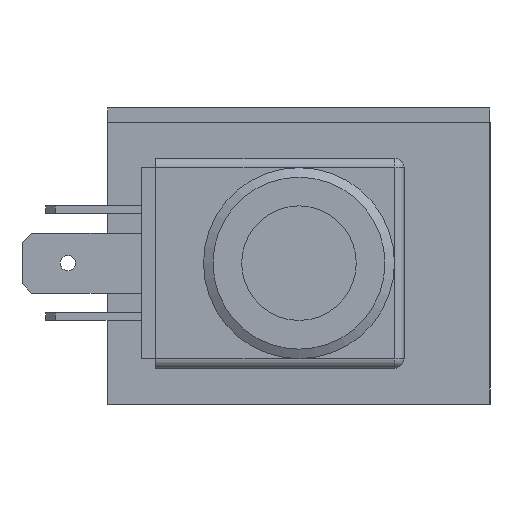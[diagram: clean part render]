
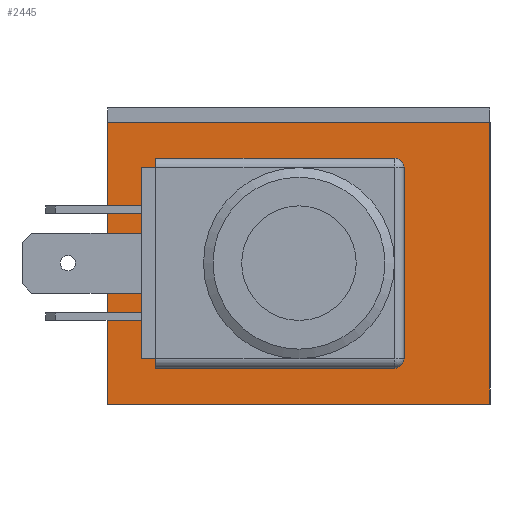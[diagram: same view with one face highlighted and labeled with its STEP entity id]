
A CAD part, left-side view. The second image highlights one B-rep face of the part: STEP entity #2445.
In plain terms, the highlighted planar face has unit normal (-1, 0, 0).
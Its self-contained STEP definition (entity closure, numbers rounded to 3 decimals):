
#1795=CARTESIAN_POINT('',(-55.0,11.,-8.75));
#1796=VERTEX_POINT('',#1795);
#1803=CARTESIAN_POINT('',(-55.0,11.0,-23.75));
#1804=VERTEX_POINT('',#1803);
#1805=CARTESIAN_POINT('',(-55.0,11.0,-23.75));
#1806=DIRECTION('',(0.0,0.0,1.0));
#1807=VECTOR('',#1806,15.);
#1808=LINE('',#1805,#1807);
#1809=EDGE_CURVE('',#1804,#1796,#1808,.T.);
#1837=CARTESIAN_POINT('',(-55.0,7.5,-5.25));
#1838=VERTEX_POINT('',#1837);
#1845=CARTESIAN_POINT('',(-55.0,7.5,-8.75));
#1846=DIRECTION('',(1.0,0.0,0.0));
#1847=DIRECTION('',(0.0,0.0,1.0));
#1848=AXIS2_PLACEMENT_3D('',#1845,#1846,#1847);
#1849=CIRCLE('',#1848,3.5);
#1850=EDGE_CURVE('',#1796,#1838,#1849,.T.);
#1869=CARTESIAN_POINT('',(-55.0,-7.5,-5.25));
#1870=VERTEX_POINT('',#1869);
#1877=CARTESIAN_POINT('',(-55.0,7.5,-5.25));
#1878=DIRECTION('',(0.0,-1.0,0.0));
#1879=VECTOR('',#1878,15.);
#1880=LINE('',#1877,#1879);
#1881=EDGE_CURVE('',#1838,#1870,#1880,.T.);
#1901=CARTESIAN_POINT('',(-55.0,-11.,-8.75));
#1902=VERTEX_POINT('',#1901);
#1909=CARTESIAN_POINT('',(-55.0,-7.5,-8.75));
#1910=DIRECTION('',(1.0,0.0,0.0));
#1911=DIRECTION('',(0.0,-1.0,0.0));
#1912=AXIS2_PLACEMENT_3D('',#1909,#1910,#1911);
#1913=CIRCLE('',#1912,3.5);
#1914=EDGE_CURVE('',#1870,#1902,#1913,.T.);
#1933=CARTESIAN_POINT('',(-55.0,-11.0,-23.75));
#1934=VERTEX_POINT('',#1933);
#1941=CARTESIAN_POINT('',(-55.0,-11.,-8.75));
#1942=DIRECTION('',(0.0,0.0,-1.0));
#1943=VECTOR('',#1942,15.);
#1944=LINE('',#1941,#1943);
#1945=EDGE_CURVE('',#1902,#1934,#1944,.T.);
#1965=CARTESIAN_POINT('',(-55.0,-7.5,-27.25));
#1966=VERTEX_POINT('',#1965);
#1973=CARTESIAN_POINT('',(-55.0,-7.5,-23.75));
#1974=DIRECTION('',(1.0,0.0,0.0));
#1975=DIRECTION('',(0.0,0.0,-1.0));
#1976=AXIS2_PLACEMENT_3D('',#1973,#1974,#1975);
#1977=CIRCLE('',#1976,3.5);
#1978=EDGE_CURVE('',#1934,#1966,#1977,.T.);
#1997=CARTESIAN_POINT('',(-55.0,7.5,-27.25));
#1998=VERTEX_POINT('',#1997);
#2005=CARTESIAN_POINT('',(-55.0,-7.5,-27.25));
#2006=DIRECTION('',(0.0,1.0,0.0));
#2007=VECTOR('',#2006,15.);
#2008=LINE('',#2005,#2007);
#2009=EDGE_CURVE('',#1966,#1998,#2008,.T.);
#2028=CARTESIAN_POINT('',(-55.0,7.5,-23.75));
#2029=DIRECTION('',(1.0,0.0,0.0));
#2030=DIRECTION('',(0.0,1.0,0.0));
#2031=AXIS2_PLACEMENT_3D('',#2028,#2029,#2030);
#2032=CIRCLE('',#2031,3.5);
#2033=EDGE_CURVE('',#1998,#1804,#2032,.T.);
#2305=CARTESIAN_POINT('',(-55.0,20.,-1.5));
#2306=VERTEX_POINT('',#2305);
#2307=CARTESIAN_POINT('',(-55.0,-20.,-1.5));
#2308=VERTEX_POINT('',#2307);
#2309=CARTESIAN_POINT('',(-55.0,20.,-1.5));
#2310=DIRECTION('',(0.0,-1.0,0.0));
#2311=VECTOR('',#2310,40.);
#2312=LINE('',#2309,#2311);
#2313=EDGE_CURVE('',#2306,#2308,#2312,.T.);
#2345=CARTESIAN_POINT('',(-55.0,-20.,-31.));
#2346=VERTEX_POINT('',#2345);
#2347=CARTESIAN_POINT('',(-55.0,-20.,-1.5));
#2348=DIRECTION('',(0.0,0.0,-1.0));
#2349=VECTOR('',#2348,29.5);
#2350=LINE('',#2347,#2349);
#2351=EDGE_CURVE('',#2308,#2346,#2350,.T.);
#2376=CARTESIAN_POINT('',(-55.0,20.,-31.));
#2377=VERTEX_POINT('',#2376);
#2378=CARTESIAN_POINT('',(-55.0,-20.,-31.));
#2379=DIRECTION('',(0.0,1.0,0.0));
#2380=VECTOR('',#2379,40.);
#2381=LINE('',#2378,#2380);
#2382=EDGE_CURVE('',#2346,#2377,#2381,.T.);
#2407=CARTESIAN_POINT('',(-55.0,20.,-31.));
#2408=DIRECTION('',(0.0,0.0,1.0));
#2409=VECTOR('',#2408,29.5);
#2410=LINE('',#2407,#2409);
#2411=EDGE_CURVE('',#2377,#2306,#2410,.T.);
#2424=CARTESIAN_POINT('',(-55.0,0.,-16.25));
#2425=DIRECTION('',(1.0,0.0,0.0));
#2426=DIRECTION('',(0.0,0.0,-1.0));
#2427=AXIS2_PLACEMENT_3D('',#2424,#2425,#2426);
#2428=PLANE('',#2427);
#2429=ORIENTED_EDGE('',*,*,#2313,.F.);
#2430=ORIENTED_EDGE('',*,*,#2411,.F.);
#2431=ORIENTED_EDGE('',*,*,#2382,.F.);
#2432=ORIENTED_EDGE('',*,*,#2351,.F.);
#2433=EDGE_LOOP('',(#2429,#2430,#2431,#2432));
#2434=FACE_OUTER_BOUND('',#2433,.T.);
#2435=ORIENTED_EDGE('',*,*,#1809,.T.);
#2436=ORIENTED_EDGE('',*,*,#1850,.T.);
#2437=ORIENTED_EDGE('',*,*,#1881,.T.);
#2438=ORIENTED_EDGE('',*,*,#1914,.T.);
#2439=ORIENTED_EDGE('',*,*,#1945,.T.);
#2440=ORIENTED_EDGE('',*,*,#1978,.T.);
#2441=ORIENTED_EDGE('',*,*,#2009,.T.);
#2442=ORIENTED_EDGE('',*,*,#2033,.T.);
#2443=EDGE_LOOP('',(#2435,#2436,#2437,#2438,#2439,#2440,#2441,#2442));
#2444=FACE_BOUND('',#2443,.T.);
#2445=ADVANCED_FACE('',(#2434,#2444),#2428,.F.);
